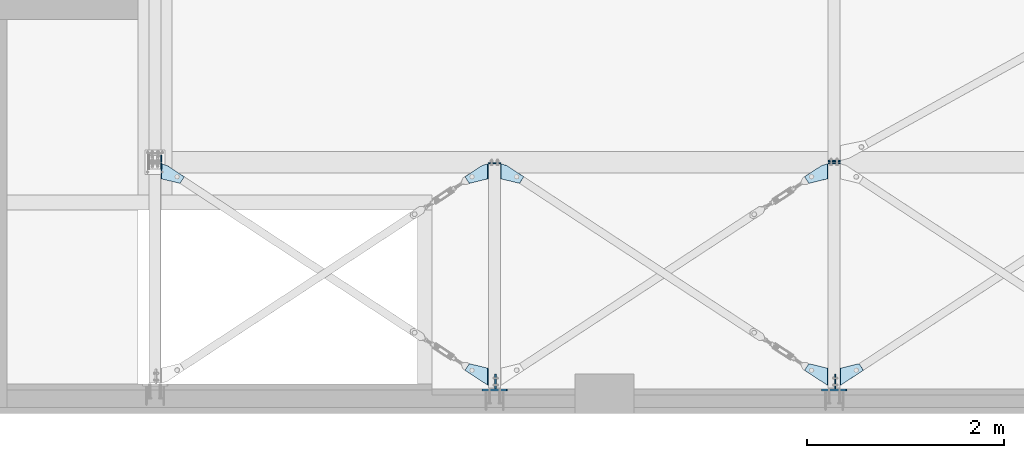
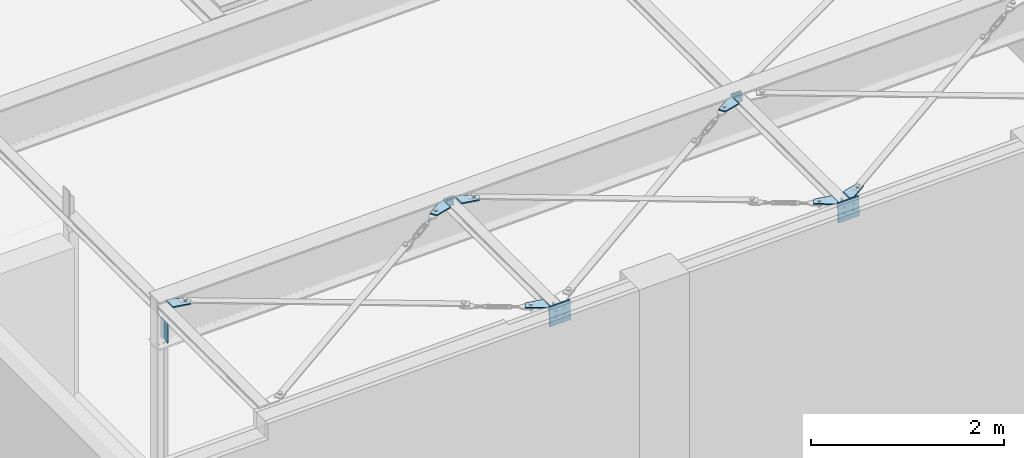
# One storey, part 35 of 476: 16 plates, 52 openings.
"""IFC2X3 building model written with IfcOpenShell, lengths in millimetres."""

from ifc_helpers import new_model, entity, si_unit, converted_unit, point, frame, frame_2d, origin, origin_with_axes, origin_2d_with_axis, place, context, project, spatial, polyline, circle_curve, line_curve, trimmed, segment, composite_curve, circle, outline, extrude, material, layer, layer_set, element, save


model = new_model("IFC2X3")

# Units and contexts
model_context = context("Model", 3, precision=1e-09, world=origin_with_axes())
ifc_project = project(units=[si_unit("LENGTHUNIT", "METRE", prefix="MILLI"), si_unit("AREAUNIT", "SQUARE_METRE"), si_unit("VOLUMEUNIT", "CUBIC_METRE"), converted_unit("PLANEANGLEUNIT", "DEGREE", entity("IfcPlaneAngleMeasure", 0.01745329), si_unit("PLANEANGLEUNIT", "RADIAN"), dimensions=[0, 0, 0, 0, 0, 0, 0])], contexts=[model_context])

# Site, building, storey
site_placement = place(None, origin_with_axes())
site = spatial("IfcSite", under=ifc_project, at=site_placement, Name="mKR Teilneubau & Sanierung BA1 - Ostfildern", CompositionType="ELEMENT")
building_placement = place(site_placement, origin_with_axes())
building = spatial("IfcBuilding", under=site, at=building_placement, Name="Struktur 1", CompositionType="ELEMENT")
storey_placement = place(building_placement, origin_with_axes())
storey = spatial("IfcBuildingStorey", under=building, at=storey_placement, Name="Default Storey", CompositionType="ELEMENT", Elevation=0.0)

# Plate, openings
ifc_material = material(Name="S235JR")
ifc_layer_1 = layer(ifc_material, 15.0)
ifc_layer_set_1 = layer_set([ifc_layer_1], Name="S235JR")
plate_1_placement = place(None, frame((15003.922584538, -21243.67487897, 5419.804698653), z_axis=(-0.029990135, 0.0, 0.999550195), x_axis=(-0.999550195, 0.0, -0.029990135)))
plate_1 = element("IfcPlate", 1, at=plate_1_placement, inside=storey, material=ifc_layer_set_1, Name="-", ObjectType="-", context=model_context, shape_type="SweptSolid", body=[
    extrude(outline(polyline([(0.0, 0.0), (40.371139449, 0.0), (239.157976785, 130.393742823), (195.281580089, 197.285566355), (1e-09, 150.0), (0.0, 0.0)])), origin_with_axes(), (0.0, 0.0, -1.0), 15.0),
])
opening_1_placement = place(plate_1_placement, frame((0.0, -0.001, 0.0), z_axis=(0.0, 1.0, 0.0), x_axis=(1.0, 0.0, 0.0)))
element("IfcOpeningElement", 2, at=opening_1_placement, cuts=plate_1, ObjectType="Opening", context=model_context, shape_type="SweptSolid", body=[
    extrude(outline(polyline([(0.0, 0.0), (8.0, 0.0), (0.0, 8.0), (0.0, 0.0)])), origin(), (0.0, 0.0, 1.0), 151.959123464),
])
opening_2_placement = place(plate_1_placement, frame((40.371139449, 0.0, 0.01), z_axis=(0.0, 0.0, 1.0), x_axis=(0.83616389, 0.548479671, 0.0)))
element("IfcOpeningElement", 3, at=opening_2_placement, cuts=plate_1, ObjectType="Opening", context=model_context, shape_type="SweptSolid", body=[
    extrude(outline(composite_curve([segment(trimmed(line_curve((0.0, 0.0), (1.0, 0.0), 29.87095402), [point((0.0, 0.0))], [point((29.87095402, 0.0))], True, "CARTESIAN"), True, "CONTINUOUS"), segment(trimmed(circle_curve(frame_2d((29.87095402, 100.0), x_axis=(-1.0, 0.0)), 100.0), [point((29.87095402, 0.0))], [point((-24.9770131, 16.383611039))], False, "CARTESIAN"), True, "CONTINUOUS"), segment(trimmed(line_curve((-24.9770131, 16.383611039), (0.83616389, -0.548479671), 29.87095402), [point((-24.9770131, 16.383611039))], [point((0.0, 0.0))], True, "CARTESIAN"), True, "CONTINUOUS")], self_intersect=False)), origin(), (0.0, 0.0, -1.0), 15.02),
])
opening_3_placement = place(plate_1_placement, frame((167.050213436, 145.431465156, -15.5), z_axis=(0.0, 0.0, -1.0), x_axis=(-1.0, 0.0, 0.0)))
element("IfcOpeningElement", 4, at=opening_3_placement, cuts=plate_1, ObjectType="Opening", context=model_context, shape_type="SweptSolid", body=[
    extrude(circle(Radius=14.501, at=frame_2d((0.0, -14.501), x_axis=(1.0, 0.0))), origin(), (0.0, 0.0, -1.0), 16.0),
])

plate_2_placement = place(None, frame((15003.922364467, -23320.388789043, 5419.804692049), z_axis=(-0.030004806, 0.0, 0.999549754), x_axis=(-0.971475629, 0.23533949, -0.029162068)))
plate_2 = element("IfcPlate", 5, at=plate_2_placement, inside=storey, material=ifc_layer_set_1, Name="-", ObjectType="-", context=model_context, shape_type="SweptSolid", body=[
    extrude(outline(polyline([(0.0, 0.0), (200.924912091, 0.0), (227.827566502, 75.338578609), (-41.531266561, 171.523929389), (0.0, 0.0)])), origin_with_axes(), (0.0, 0.0, -1.0), 15.0),
])
opening_4_placement = place(plate_2_placement, frame((0.456082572, -1.883618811, 0.0), z_axis=(-0.235330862, 0.971915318, 0.0), x_axis=(0.971915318, 0.235330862, 0.0)))
element("IfcOpeningElement", 6, at=opening_4_placement, cuts=plate_2, ObjectType="Opening", context=model_context, shape_type="SweptSolid", body=[
    extrude(outline(polyline([(0.0, 0.0), (8.0, 0.0), (0.0, 8.0), (0.0, 0.0)])), origin(), (0.0, 0.0, 1.0), 178.43837142),
])
opening_5_placement = place(plate_2_placement, frame((157.870504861, 57.84744696, -15.499797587), z_axis=(-1.4266e-05, -3.454e-06, 1.0), x_axis=(-0.23533949, 0.971913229, 0.0)))
element("IfcOpeningElement", 7, at=opening_5_placement, cuts=plate_2, ObjectType="Opening", context=model_context, shape_type="SweptSolid", body=[
    extrude(circle(Radius=14.501, at=origin_2d_with_axis()), origin(), (0.0, 0.0, 1.0), 16.000000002),
])

plate_3_placement = place(None, frame((11673.865194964, -21243.67487897, 5319.84189198), z_axis=(0.030019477, 0.0, -0.999549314), x_axis=(0.999549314, 0.0, 0.030019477)))
plate_3 = element("IfcPlate", 8, at=plate_3_placement, inside=storey, material=ifc_layer_set_1, Name="-", ObjectType="-", context=model_context, shape_type="SweptSolid", body=[
    extrude(outline(polyline([(0.0, 0.0), (40.371139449, 0.0), (239.157976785, 130.393742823), (195.281580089, 197.285566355), (1e-09, 150.0), (0.0, 0.0)])), origin_with_axes(), (0.0, 0.0, 1.0), 15.0),
])
opening_6_placement = place(plate_3_placement, frame((1e-09, 151.938123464, 0.0), z_axis=(0.0, -1.0, 0.0), x_axis=(1.0, 0.0, 0.0)))
element("IfcOpeningElement", 9, at=opening_6_placement, cuts=plate_3, ObjectType="Opening", context=model_context, shape_type="SweptSolid", body=[
    extrude(outline(polyline([(0.0, 0.0), (8.0, 0.0), (0.0, 8.0), (0.0, 0.0)])), origin(), (0.0, 0.0, 1.0), 151.959123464),
])
opening_7_placement = place(plate_3_placement, frame((0.0, 0.0, -0.01), z_axis=(0.0, 0.0, 1.0), x_axis=(1.0, 0.0, 0.0)))
element("IfcOpeningElement", 10, at=opening_7_placement, cuts=plate_3, ObjectType="Opening", context=model_context, shape_type="SweptSolid", body=[
    extrude(outline(composite_curve([segment(trimmed(line_curve((40.371139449, 0.0), (0.83616389, 0.548479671), 29.87095402), [point((40.371139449, 0.0))], [point((65.348152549, 16.383611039))], True, "CARTESIAN"), True, "CONTINUOUS"), segment(trimmed(circle_curve(frame_2d((10.500185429, 100.0), x_axis=(-1.0, 0.0)), 100.0), [point((65.348152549, 16.383611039))], [point((10.500185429, 0.0))], False, "CARTESIAN"), True, "CONTINUOUS"), segment(trimmed(line_curve((10.500185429, 0.0), (1.0, 0.0), 29.87095402), [point((10.500185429, 0.0))], [point((40.371139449, 0.0))], True, "CARTESIAN"), True, "CONTINUOUS")], self_intersect=False)), origin(), (0.0, 0.0, 1.0), 15.02),
])
opening_8_placement = place(plate_3_placement, frame((167.050213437, 130.930465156, 15.5), z_axis=(0.0, 0.0, -1.0), x_axis=(0.0, -1.0, 0.0)))
element("IfcOpeningElement", 11, at=opening_8_placement, cuts=plate_3, ObjectType="Opening", context=model_context, shape_type="SweptSolid", body=[
    extrude(circle(Radius=14.501, at=origin_2d_with_axis()), origin(), (0.0, 0.0, 1.0), 16.0),
])

plate_4_placement = place(None, frame((11553.921498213, -23320.388789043, 5316.113165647), z_axis=(-0.030004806, 0.0, 0.999549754), x_axis=(-0.971475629, 0.23533949, -0.029162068)))
plate_4 = element("IfcPlate", 12, at=plate_4_placement, inside=storey, material=ifc_layer_set_1, Name="-", ObjectType="-", context=model_context, shape_type="SweptSolid", body=[
    extrude(outline(polyline([(0.0, 0.0), (200.924912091, 0.0), (227.827566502, 75.338578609), (-41.531266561, 171.523929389), (0.0, 0.0)])), origin_with_axes(), (0.0, 0.0, -1.0), 15.0),
])
opening_9_placement = place(plate_4_placement, frame((0.456082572, -1.883618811, 0.0), z_axis=(-0.235330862, 0.971915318, 0.0), x_axis=(0.971915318, 0.235330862, 0.0)))
element("IfcOpeningElement", 13, at=opening_9_placement, cuts=plate_4, ObjectType="Opening", context=model_context, shape_type="SweptSolid", body=[
    extrude(outline(polyline([(0.0, 0.0), (8.0, 0.0), (0.0, 8.0), (0.0, 0.0)])), origin(), (0.0, 0.0, 1.0), 178.43837142),
])
opening_10_placement = place(plate_4_placement, frame((157.870504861, 57.84744696, -15.499797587), z_axis=(-1.4266e-05, -3.454e-06, 1.0), x_axis=(-0.23533949, 0.971913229, 0.0)))
element("IfcOpeningElement", 14, at=opening_10_placement, cuts=plate_4, ObjectType="Opening", context=model_context, shape_type="SweptSolid", body=[
    extrude(circle(Radius=14.501, at=origin_2d_with_axis()), origin(), (0.0, 0.0, 1.0), 16.000000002),
])

plate_5_placement = place(None, frame((11553.921718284, -21243.67487897, 5316.113172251), z_axis=(-0.029990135, 0.0, 0.999550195), x_axis=(-0.999550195, 0.0, -0.029990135)))
plate_5 = element("IfcPlate", 15, at=plate_5_placement, inside=storey, material=ifc_layer_set_1, Name="-", ObjectType="-", context=model_context, shape_type="SweptSolid", body=[
    extrude(outline(polyline([(0.0, 0.0), (40.371139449, 0.0), (239.157976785, 130.393742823), (195.281580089, 197.285566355), (1e-09, 150.0), (0.0, 0.0)])), origin_with_axes(), (0.0, 0.0, -1.0), 15.0),
])
opening_11_placement = place(plate_5_placement, frame((0.0, -0.001, 0.0), z_axis=(0.0, 1.0, 0.0), x_axis=(1.0, 0.0, 0.0)))
element("IfcOpeningElement", 16, at=opening_11_placement, cuts=plate_5, ObjectType="Opening", context=model_context, shape_type="SweptSolid", body=[
    extrude(outline(polyline([(0.0, 0.0), (8.0, 0.0), (0.0, 8.0), (0.0, 0.0)])), origin(), (0.0, 0.0, 1.0), 151.959123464),
])
opening_12_placement = place(plate_5_placement, frame((40.371139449, 0.0, 0.01), z_axis=(0.0, 0.0, 1.0), x_axis=(0.83616389, 0.548479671, 0.0)))
element("IfcOpeningElement", 17, at=opening_12_placement, cuts=plate_5, ObjectType="Opening", context=model_context, shape_type="SweptSolid", body=[
    extrude(outline(composite_curve([segment(trimmed(line_curve((0.0, 0.0), (1.0, 0.0), 29.87095402), [point((0.0, 0.0))], [point((29.87095402, 0.0))], True, "CARTESIAN"), True, "CONTINUOUS"), segment(trimmed(circle_curve(frame_2d((29.87095402, 100.0), x_axis=(-1.0, 0.0)), 100.0), [point((29.87095402, 0.0))], [point((-24.9770131, 16.383611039))], False, "CARTESIAN"), True, "CONTINUOUS"), segment(trimmed(line_curve((-24.9770131, 16.383611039), (0.83616389, -0.548479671), 29.87095402), [point((-24.9770131, 16.383611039))], [point((0.0, 0.0))], True, "CARTESIAN"), True, "CONTINUOUS")], self_intersect=False)), origin(), (0.0, 0.0, -1.0), 15.02),
])
opening_13_placement = place(plate_5_placement, frame((167.050213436, 145.431465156, -15.5), z_axis=(0.0, 0.0, -1.0), x_axis=(-1.0, 0.0, 0.0)))
element("IfcOpeningElement", 18, at=opening_13_placement, cuts=plate_5, ObjectType="Opening", context=model_context, shape_type="SweptSolid", body=[
    extrude(circle(Radius=14.501, at=frame_2d((0.0, -14.501), x_axis=(1.0, 0.0))), origin(), (0.0, 0.0, -1.0), 16.0),
])

plate_6_placement = place(None, frame((8223.86432871, -21243.67487897, 5216.150365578), z_axis=(0.030019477, 0.0, -0.999549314), x_axis=(0.999549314, 0.0, 0.030019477)))
plate_6 = element("IfcPlate", 19, at=plate_6_placement, inside=storey, material=ifc_layer_set_1, Name="-", ObjectType="-", context=model_context, shape_type="SweptSolid", body=[
    extrude(outline(polyline([(0.0, 0.0), (40.371139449, 0.0), (239.157976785, 130.393742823), (195.281580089, 197.285566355), (1e-09, 150.0), (0.0, 0.0)])), origin_with_axes(), (0.0, 0.0, 1.0), 15.0),
])
opening_14_placement = place(plate_6_placement, frame((1e-09, 151.938123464, 0.0), z_axis=(0.0, -1.0, 0.0), x_axis=(1.0, 0.0, 0.0)))
element("IfcOpeningElement", 20, at=opening_14_placement, cuts=plate_6, ObjectType="Opening", context=model_context, shape_type="SweptSolid", body=[
    extrude(outline(polyline([(0.0, 0.0), (8.0, 0.0), (0.0, 8.0), (0.0, 0.0)])), origin(), (0.0, 0.0, 1.0), 151.959123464),
])
opening_15_placement = place(plate_6_placement, frame((0.0, 0.0, -0.01), z_axis=(0.0, 0.0, 1.0), x_axis=(1.0, 0.0, 0.0)))
element("IfcOpeningElement", 21, at=opening_15_placement, cuts=plate_6, ObjectType="Opening", context=model_context, shape_type="SweptSolid", body=[
    extrude(outline(composite_curve([segment(trimmed(line_curve((40.371139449, 0.0), (0.83616389, 0.548479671), 29.87095402), [point((40.371139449, 0.0))], [point((65.348152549, 16.383611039))], True, "CARTESIAN"), True, "CONTINUOUS"), segment(trimmed(circle_curve(frame_2d((10.500185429, 100.0), x_axis=(-1.0, 0.0)), 100.0), [point((65.348152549, 16.383611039))], [point((10.500185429, 0.0))], False, "CARTESIAN"), True, "CONTINUOUS"), segment(trimmed(line_curve((10.500185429, 0.0), (1.0, 0.0), 29.87095402), [point((10.500185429, 0.0))], [point((40.371139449, 0.0))], True, "CARTESIAN"), True, "CONTINUOUS")], self_intersect=False)), origin(), (0.0, 0.0, 1.0), 15.02),
])
opening_16_placement = place(plate_6_placement, frame((167.050213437, 130.930465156, 15.5), z_axis=(0.0, 0.0, -1.0), x_axis=(0.0, -1.0, 0.0)))
element("IfcOpeningElement", 22, at=opening_16_placement, cuts=plate_6, ObjectType="Opening", context=model_context, shape_type="SweptSolid", body=[
    extrude(circle(Radius=14.501, at=origin_2d_with_axis()), origin(), (0.0, 0.0, 1.0), 16.0),
])

ifc_layer_2 = layer(ifc_material, 20.0)
ifc_layer_set_2 = layer_set([ifc_layer_2], Name="S235JR")
plate_7_placement = place(None, frame((14938.203082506, -23549.67387897, 5477.808649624), z_axis=(0.0, 1.0, 0.0), x_axis=(0.999548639, 0.0, 0.030041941)))
plate_7 = element("IfcPlate", 23, at=plate_7_placement, inside=storey, material=ifc_layer_set_2, Name="-", ObjectType="-", context=model_context, shape_type="SweptSolid", body=[
    extrude(outline(polyline([(0.0, 0.0), (250.0, 0.0), (250.0, 250.0), (0.0, 250.0), (0.0, 0.0)])), origin_with_axes(), (0.0, 0.0, 1.0), 20.0),
])
opening_17_placement = place(plate_7_placement, frame((72.0, 152.0, 20.5), z_axis=(0.0, 0.0, -1.0), x_axis=(1.0, 0.0, 0.0)))
element("IfcOpeningElement", 24, at=opening_17_placement, cuts=plate_7, ObjectType="Opening", context=model_context, shape_type="SweptSolid", body=[
    extrude(circle(Radius=8.501, at=origin_2d_with_axis()), origin(), (0.0, 0.0, 1.0), 21.0),
])
opening_18_placement = place(plate_7_placement, frame((178.0, 152.0, 20.5), z_axis=(0.0, 0.0, -1.0), x_axis=(1.0, 0.0, 0.0)))
element("IfcOpeningElement", 25, at=opening_18_placement, cuts=plate_7, ObjectType="Opening", context=model_context, shape_type="SweptSolid", body=[
    extrude(circle(Radius=8.501, at=origin_2d_with_axis()), origin(), (0.0, 0.0, 1.0), 21.0),
])
opening_19_placement = place(plate_7_placement, frame((178.0, 72.0, 20.5), z_axis=(0.0, 0.0, -1.0), x_axis=(1.0, 0.0, 0.0)))
element("IfcOpeningElement", 26, at=opening_19_placement, cuts=plate_7, ObjectType="Opening", context=model_context, shape_type="SweptSolid", body=[
    extrude(circle(Radius=8.501, at=origin_2d_with_axis()), origin(), (0.0, 0.0, 1.0), 21.0),
])
opening_20_placement = place(plate_7_placement, frame((72.0, 72.0, 20.5), z_axis=(0.0, 0.0, -1.0), x_axis=(1.0, 0.0, 0.0)))
element("IfcOpeningElement", 27, at=opening_20_placement, cuts=plate_7, ObjectType="Opening", context=model_context, shape_type="SweptSolid", body=[
    extrude(circle(Radius=8.501, at=origin_2d_with_axis()), origin(), (0.0, 0.0, 1.0), 21.0),
])

plate_8_placement = place(None, frame((15083.099349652, -23454.67387897, 5365.124553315), z_axis=(-0.999548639, 0.0, -0.030041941), x_axis=(0.0, -1.0, 0.0)))
plate_8 = element("IfcPlate", 28, at=plate_8_placement, inside=storey, material=ifc_layer_set_1, Name="-", ObjectType="-", context=model_context, shape_type="SweptSolid", body=[
    extrude(outline(polyline([(-75.0, -37.5), (75.0, -37.5), (75.0, 37.5), (-75.0, 37.5), (-75.0, -37.5)])), origin_with_axes(), (0.0, 0.0, 1.0), 15.0),
])
opening_21_placement = place(plate_8_placement, frame((1.0353e-05, 2.166e-06, -0.5), z_axis=(0.0, 0.0, 1.0), x_axis=(1.0, 0.0, 0.0)))
element("IfcOpeningElement", 29, at=opening_21_placement, cuts=plate_8, ObjectType="Opening", context=model_context, shape_type="SweptSolid", body=[
    extrude(circle(Radius=9.001, at=frame_2d((35.0, 0.0), x_axis=(1.0, 0.0))), origin(), (0.0, 0.0, 1.0), 16.0),
])
opening_22_placement = place(plate_8_placement, frame((1.0353e-05, 2.166e-06, -0.5), z_axis=(0.0, 0.0, 1.0), x_axis=(1.0, 0.0, 0.0)))
element("IfcOpeningElement", 30, at=opening_22_placement, cuts=plate_8, ObjectType="Opening", context=model_context, shape_type="SweptSolid", body=[
    extrude(circle(Radius=9.001, at=frame_2d((-35.0, 0.0), x_axis=(1.0, 0.0))), origin(), (0.0, 0.0, 1.0), 16.0),
])

plate_9_placement = place(None, frame((11488.203945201, -23549.67387897, 5374.115294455), z_axis=(0.0, 1.0, 0.0), x_axis=(0.999548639, 0.0, 0.030041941)))
plate_9 = element("IfcPlate", 31, at=plate_9_placement, inside=storey, material=ifc_layer_set_2, Name="-", ObjectType="-", context=model_context, shape_type="SweptSolid", body=[
    extrude(outline(polyline([(0.0, 0.0), (250.0, 0.0), (250.0, 250.0), (0.0, 250.0), (0.0, 0.0)])), origin_with_axes(), (0.0, 0.0, 1.0), 20.0),
])
opening_23_placement = place(plate_9_placement, frame((72.0, 152.0, 20.5), z_axis=(0.0, 0.0, -1.0), x_axis=(1.0, 0.0, 0.0)))
element("IfcOpeningElement", 32, at=opening_23_placement, cuts=plate_9, ObjectType="Opening", context=model_context, shape_type="SweptSolid", body=[
    extrude(circle(Radius=8.501, at=origin_2d_with_axis()), origin(), (0.0, 0.0, 1.0), 21.0),
])
opening_24_placement = place(plate_9_placement, frame((178.0, 152.0, 20.5), z_axis=(0.0, 0.0, -1.0), x_axis=(1.0, 0.0, 0.0)))
element("IfcOpeningElement", 33, at=opening_24_placement, cuts=plate_9, ObjectType="Opening", context=model_context, shape_type="SweptSolid", body=[
    extrude(circle(Radius=8.501, at=origin_2d_with_axis()), origin(), (0.0, 0.0, 1.0), 21.0),
])
opening_25_placement = place(plate_9_placement, frame((178.0, 72.0, 20.5), z_axis=(0.0, 0.0, -1.0), x_axis=(1.0, 0.0, 0.0)))
element("IfcOpeningElement", 34, at=opening_25_placement, cuts=plate_9, ObjectType="Opening", context=model_context, shape_type="SweptSolid", body=[
    extrude(circle(Radius=8.501, at=origin_2d_with_axis()), origin(), (0.0, 0.0, 1.0), 21.0),
])
opening_26_placement = place(plate_9_placement, frame((72.0, 72.0, 20.5), z_axis=(0.0, 0.0, -1.0), x_axis=(1.0, 0.0, 0.0)))
element("IfcOpeningElement", 35, at=opening_26_placement, cuts=plate_9, ObjectType="Opening", context=model_context, shape_type="SweptSolid", body=[
    extrude(circle(Radius=8.501, at=origin_2d_with_axis()), origin(), (0.0, 0.0, 1.0), 21.0),
])

plate_10_placement = place(None, frame((11633.100212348, -23454.67387897, 5261.431198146), z_axis=(-0.999548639, 0.0, -0.030041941), x_axis=(0.0, -1.0, 0.0)))
plate_10 = element("IfcPlate", 36, at=plate_10_placement, inside=storey, material=ifc_layer_set_1, Name="-", ObjectType="-", context=model_context, shape_type="SweptSolid", body=[
    extrude(outline(polyline([(-75.0, -37.5), (75.0, -37.5), (75.0, 37.5), (-75.0, 37.5), (-75.0, -37.5)])), origin_with_axes(), (0.0, 0.0, 1.0), 15.0),
])
opening_27_placement = place(plate_10_placement, frame((1.0353e-05, 2.166e-06, -0.5), z_axis=(0.0, 0.0, 1.0), x_axis=(1.0, 0.0, 0.0)))
element("IfcOpeningElement", 37, at=opening_27_placement, cuts=plate_10, ObjectType="Opening", context=model_context, shape_type="SweptSolid", body=[
    extrude(circle(Radius=9.001, at=frame_2d((35.0, 0.0), x_axis=(1.0, 0.0))), origin(), (0.0, 0.0, 1.0), 16.0),
])
opening_28_placement = place(plate_10_placement, frame((1.0353e-05, 2.166e-06, -0.5), z_axis=(0.0, 0.0, 1.0), x_axis=(1.0, 0.0, 0.0)))
element("IfcOpeningElement", 38, at=opening_28_placement, cuts=plate_10, ObjectType="Opening", context=model_context, shape_type="SweptSolid", body=[
    extrude(circle(Radius=9.001, at=frame_2d((-35.0, 0.0), x_axis=(1.0, 0.0))), origin(), (0.0, 0.0, 1.0), 16.0),
])

plate_11_placement = place(None, frame((15123.866281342, -23320.388789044, 5423.533424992), z_axis=(0.030004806, 0.0, -0.999549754), x_axis=(0.971475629, 0.23533949, 0.029162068)))
plate_11 = element("IfcPlate", 39, at=plate_11_placement, inside=storey, material=ifc_layer_set_1, Name="-", ObjectType="-", context=model_context, shape_type="SweptSolid", body=[
    extrude(outline(polyline([(0.0, 0.0), (200.924912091, 0.0), (227.827566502, 75.338578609), (-41.531266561, 171.523929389), (0.0, 0.0)])), origin_with_axes(), (0.0, 0.0, 1.0), 15.0),
])
opening_29_placement = place(plate_11_placement, frame((-41.531266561, 171.523929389, 0.0), z_axis=(0.235330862, -0.971915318, 0.0), x_axis=(0.971915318, 0.235330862, 0.0)))
element("IfcOpeningElement", 40, at=opening_29_placement, cuts=plate_11, ObjectType="Opening", context=model_context, shape_type="SweptSolid", body=[
    extrude(outline(polyline([(0.0, 0.0), (8.0, 0.0), (0.0, 8.0), (0.0, 0.0)])), origin(), (0.0, 0.0, 1.0), 178.43837142),
])
opening_30_placement = place(plate_11_placement, frame((161.283162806, 43.753733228, 15.499797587), z_axis=(1.4266e-05, 3.454e-06, 1.0), x_axis=(1.0, 0.0, -1.4266e-05)))
element("IfcOpeningElement", 41, at=opening_30_placement, cuts=plate_11, ObjectType="Opening", context=model_context, shape_type="SweptSolid", body=[
    extrude(circle(Radius=14.501, at=frame_2d((-3.412657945, 14.093713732), x_axis=(1.0, 0.0))), origin(), (0.0, 0.0, -1.0), 16.000000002),
])

ifc_layer_3 = layer(ifc_material, 10.0)
ifc_layer_set_3 = layer_set([ifc_layer_3], Name="S235JR")
plate_12_placement = place(None, frame((8222.108764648, -21296.67387897, 4696.483942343), z_axis=(1.0, 0.0, 0.0), x_axis=(0.0, 1.0, 0.0)))
plate_12 = element("IfcPlate", 42, at=plate_12_placement, inside=storey, material=ifc_layer_set_3, Name="Stiffener#2", ObjectType="Stiffener#2", context=model_context, shape_type="SweptSolid", body=[
    extrude(outline(polyline([(0.0, 0.0), (65.0, 0.0), (65.0, 250.0), (0.0, 250.0), (0.0, 0.0)])), origin_with_axes(), (0.0, 0.0, 1.0), 10.0),
])
opening_31_placement = place(plate_12_placement, frame((0.0, 0.0, -0.01), z_axis=(0.0, 0.0, 1.0), x_axis=(1.0, 0.0, 0.0)))
element("IfcOpeningElement", 43, at=opening_31_placement, cuts=plate_12, ObjectType="Opening", context=model_context, shape_type="SweptSolid", body=[
    extrude(outline(composite_curve([segment(trimmed(line_curve((65.0, 0.0), (0.0, 1.0), 25.0), [point((65.0, 0.0))], [point((65.0, 25.0))], True, "CARTESIAN"), True, "CONTINUOUS"), segment(trimmed(circle_curve(frame_2d((40.0, 25.0), x_axis=(-1.0, 0.0)), 25.0), [point((65.0, 25.0))], [point((40.0, 0.0))], False, "CARTESIAN"), True, "CONTINUOUS"), segment(trimmed(line_curve((40.0, 0.0), (1.0, 0.0), 25.0), [point((40.0, 0.0))], [point((65.0, 0.0))], True, "CARTESIAN"), True, "CONTINUOUS")], self_intersect=False)), origin(), (0.0, 0.0, 1.0), 10.02),
])
opening_32_placement = place(plate_12_placement, frame((41.0, 22.499322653, -0.5), z_axis=(0.0, 0.0, 1.0), x_axis=(0.0, 1.0, 0.0)))
element("IfcOpeningElement", 44, at=opening_32_placement, cuts=plate_12, ObjectType="Opening", context=model_context, shape_type="SweptSolid", body=[
    extrude(circle(Radius=7.001, at=frame_2d((-7.0, -7.0), x_axis=(1.0, 0.0))), origin(), (0.0, 0.0, 1.0), 11.0),
])

plate_13_placement = place(None, frame((8222.108764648, -21219.67387897, 4696.483942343), z_axis=(1.0, 0.0, 0.0), x_axis=(0.0, 1.0, 0.0)))
plate_13 = element("IfcPlate", 45, at=plate_13_placement, inside=storey, material=ifc_layer_set_3, Name="Stiffener#2", ObjectType="Stiffener#2", context=model_context, shape_type="SweptSolid", body=[
    extrude(outline(polyline([(0.0, 0.0), (65.0, 0.0), (65.0, 250.0), (0.0, 250.0), (0.0, 0.0)])), origin_with_axes(), (0.0, 0.0, 1.0), 10.0),
])
opening_33_placement = place(plate_13_placement, frame((0.0, 0.0, -0.01), z_axis=(0.0, 0.0, 1.0), x_axis=(1.0, 0.0, 0.0)))
element("IfcOpeningElement", 46, at=opening_33_placement, cuts=plate_13, ObjectType="Opening", context=model_context, shape_type="SweptSolid", body=[
    extrude(outline(composite_curve([segment(trimmed(line_curve((0.0, 0.0), (1.0, 0.0), 25.0), [point((0.0, 0.0))], [point((25.0, 0.0))], True, "CARTESIAN"), True, "CONTINUOUS"), segment(trimmed(circle_curve(frame_2d((25.0, 25.0), x_axis=(-1.0, 0.0)), 25.0), [point((25.0, 0.0))], [point((0.0, 25.0))], False, "CARTESIAN"), True, "CONTINUOUS"), segment(trimmed(line_curve((0.0, 25.0), (0.0, -1.0), 25.0), [point((0.0, 25.0))], [point((0.0, 0.0))], True, "CARTESIAN"), True, "CONTINUOUS")], self_intersect=False)), origin(), (0.0, 0.0, 1.0), 10.02),
])
opening_34_placement = place(plate_13_placement, frame((24.0, 22.499322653, -0.5), z_axis=(0.0, 0.0, 1.0), x_axis=(0.0, 1.0, 0.0)))
element("IfcOpeningElement", 47, at=opening_34_placement, cuts=plate_13, ObjectType="Opening", context=model_context, shape_type="SweptSolid", body=[
    extrude(circle(Radius=7.001, at=frame_2d((-7.0, 7.0), x_axis=(1.0, 0.0))), origin(), (0.0, 0.0, 1.0), 11.0),
])

ifc_layer_4 = layer(ifc_material, 12.0)
ifc_layer_set_4 = layer_set([ifc_layer_4], Name="S235JR")
plate_14_placement = place(None, frame((15123.720531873, -21231.67387897, 5428.37543939), z_axis=(0.0, -1.0, 0.0), x_axis=(-0.999549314, 0.0, -0.030019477)))
plate_14 = element("IfcPlate", 48, at=plate_14_placement, inside=storey, material=ifc_layer_set_4, Name="Endplate", ObjectType="Endplate", context=model_context, shape_type="SweptSolid", body=[
    extrude(outline(polyline([(0.0, 0.0), (120.0, 0.0), (120.0, 124.0), (0.0, 124.0), (0.0, 0.0)])), origin_with_axes(), (0.0, 0.0, 1.0), 12.0),
])
opening_35_placement = place(plate_14_placement, frame((89.999999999, 62.000112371, -0.5), z_axis=(0.0, 0.0, 1.0), x_axis=(0.0, -1.0, 0.0)))
element("IfcOpeningElement", 49, at=opening_35_placement, cuts=plate_14, ObjectType="Opening", context=model_context, shape_type="SweptSolid", body=[
    extrude(circle(Radius=7.001, at=origin_2d_with_axis()), origin(), (0.0, 0.0, 1.0), 13.0),
])
opening_36_placement = place(plate_14_placement, frame((30.000000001, 61.999887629, -0.5), z_axis=(0.0, 0.0, 1.0), x_axis=(0.0, -1.0, 0.0)))
element("IfcOpeningElement", 50, at=opening_36_placement, cuts=plate_14, ObjectType="Opening", context=model_context, shape_type="SweptSolid", body=[
    extrude(circle(Radius=7.001, at=origin_2d_with_axis()), origin(), (0.0, 0.0, 1.0), 13.0),
])
opening_37_placement = place(plate_14_placement, frame((74.5, 99.0, -0.5), z_axis=(0.0, 0.0, 1.0), x_axis=(0.0, -1.0, 0.0)))
element("IfcOpeningElement", 51, at=opening_37_placement, cuts=plate_14, ObjectType="Opening", context=model_context, shape_type="SweptSolid", body=[
    extrude(circle(Radius=6.001, at=origin_2d_with_axis()), origin(), (0.0, 0.0, 1.0), 13.0),
])
opening_38_placement = place(plate_14_placement, frame((74.5, 25.0, -0.5), z_axis=(0.0, 0.0, 1.0), x_axis=(0.0, -1.0, 0.0)))
element("IfcOpeningElement", 52, at=opening_38_placement, cuts=plate_14, ObjectType="Opening", context=model_context, shape_type="SweptSolid", body=[
    extrude(circle(Radius=6.001, at=origin_2d_with_axis()), origin(), (0.0, 0.0, 1.0), 13.0),
])
opening_39_placement = place(plate_14_placement, frame((45.5, 25.0, -0.5), z_axis=(0.0, 0.0, 1.0), x_axis=(0.0, -1.0, 0.0)))
element("IfcOpeningElement", 53, at=opening_39_placement, cuts=plate_14, ObjectType="Opening", context=model_context, shape_type="SweptSolid", body=[
    extrude(circle(Radius=6.001, at=origin_2d_with_axis()), origin(), (0.0, 0.0, 1.0), 13.0),
])
opening_40_placement = place(plate_14_placement, frame((45.5, 99.0, -0.5), z_axis=(0.0, 0.0, 1.0), x_axis=(0.0, -1.0, 0.0)))
element("IfcOpeningElement", 54, at=opening_40_placement, cuts=plate_14, ObjectType="Opening", context=model_context, shape_type="SweptSolid", body=[
    extrude(circle(Radius=6.001, at=origin_2d_with_axis()), origin(), (0.0, 0.0, 1.0), 13.0),
])

plate_15_placement = place(None, frame((15003.774614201, -21219.67387897, 5424.773102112), z_axis=(0.0, 1.0, 0.0), x_axis=(0.999549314, 0.0, 0.030019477)))
plate_15 = element("IfcPlate", 55, at=plate_15_placement, inside=storey, material=ifc_layer_set_4, Name="Endplate", ObjectType="Endplate", context=model_context, shape_type="SweptSolid", body=[
    extrude(outline(polyline([(0.0, 0.0), (120.0, 0.0), (120.0, 124.0), (0.0, 124.0), (0.0, 0.0)])), origin_with_axes(), (0.0, 0.0, 1.0), 12.0),
])
opening_41_placement = place(plate_15_placement, frame((30.000000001, 62.000112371, 12.5), z_axis=(0.0, 0.0, -1.0), x_axis=(0.0, -1.0, 0.0)))
element("IfcOpeningElement", 56, at=opening_41_placement, cuts=plate_15, ObjectType="Opening", context=model_context, shape_type="SweptSolid", body=[
    extrude(circle(Radius=7.001, at=origin_2d_with_axis()), origin(), (0.0, 0.0, 1.0), 13.0),
])
opening_42_placement = place(plate_15_placement, frame((89.999999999, 61.999887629, 12.5), z_axis=(0.0, 0.0, -1.0), x_axis=(0.0, -1.0, 0.0)))
element("IfcOpeningElement", 57, at=opening_42_placement, cuts=plate_15, ObjectType="Opening", context=model_context, shape_type="SweptSolid", body=[
    extrude(circle(Radius=7.001, at=origin_2d_with_axis()), origin(), (0.0, 0.0, 1.0), 13.0),
])
opening_43_placement = place(plate_15_placement, frame((45.5, 99.0, -0.5), z_axis=(0.0, 0.0, 1.0), x_axis=(0.0, 1.0, 0.0)))
element("IfcOpeningElement", 58, at=opening_43_placement, cuts=plate_15, ObjectType="Opening", context=model_context, shape_type="SweptSolid", body=[
    extrude(circle(Radius=6.001, at=origin_2d_with_axis()), origin(), (0.0, 0.0, 1.0), 13.0),
])
opening_44_placement = place(plate_15_placement, frame((45.5, 25.0, -0.5), z_axis=(0.0, 0.0, 1.0), x_axis=(0.0, 1.0, 0.0)))
element("IfcOpeningElement", 59, at=opening_44_placement, cuts=plate_15, ObjectType="Opening", context=model_context, shape_type="SweptSolid", body=[
    extrude(circle(Radius=6.001, at=origin_2d_with_axis()), origin(), (0.0, 0.0, 1.0), 13.0),
])
opening_45_placement = place(plate_15_placement, frame((74.5, 25.0, -0.5), z_axis=(0.0, 0.0, 1.0), x_axis=(0.0, 1.0, 0.0)))
element("IfcOpeningElement", 60, at=opening_45_placement, cuts=plate_15, ObjectType="Opening", context=model_context, shape_type="SweptSolid", body=[
    extrude(circle(Radius=6.001, at=origin_2d_with_axis()), origin(), (0.0, 0.0, 1.0), 13.0),
])
opening_46_placement = place(plate_15_placement, frame((74.5, 99.0, -0.5), z_axis=(0.0, 0.0, 1.0), x_axis=(0.0, 1.0, 0.0)))
element("IfcOpeningElement", 61, at=opening_46_placement, cuts=plate_15, ObjectType="Opening", context=model_context, shape_type="SweptSolid", body=[
    extrude(circle(Radius=6.001, at=origin_2d_with_axis()), origin(), (0.0, 0.0, 1.0), 13.0),
])

plate_16_placement = place(None, frame((11673.721467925, -21231.67387897, 5324.682086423), z_axis=(0.0, -1.0, 0.0), x_axis=(-0.999549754, 0.0, -0.030004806)))
plate_16 = element("IfcPlate", 62, at=plate_16_placement, inside=storey, material=ifc_layer_set_4, Name="Endplate", ObjectType="Endplate", context=model_context, shape_type="SweptSolid", body=[
    extrude(outline(polyline([(0.0, 0.0), (120.0, 0.0), (120.0, 124.0), (0.0, 124.0), (0.0, 0.0)])), origin_with_axes(), (0.0, 0.0, 1.0), 12.0),
])
opening_47_placement = place(plate_16_placement, frame((74.5, 99.0, -0.5), z_axis=(0.0, 0.0, 1.0), x_axis=(0.0, -1.0, 0.0)))
element("IfcOpeningElement", 63, at=opening_47_placement, cuts=plate_16, ObjectType="Opening", context=model_context, shape_type="SweptSolid", body=[
    extrude(circle(Radius=6.001, at=origin_2d_with_axis()), origin(), (0.0, 0.0, 1.0), 13.0),
])
opening_48_placement = place(plate_16_placement, frame((74.5, 25.0, -0.5), z_axis=(0.0, 0.0, 1.0), x_axis=(0.0, -1.0, 0.0)))
element("IfcOpeningElement", 64, at=opening_48_placement, cuts=plate_16, ObjectType="Opening", context=model_context, shape_type="SweptSolid", body=[
    extrude(circle(Radius=6.001, at=origin_2d_with_axis()), origin(), (0.0, 0.0, 1.0), 13.0),
])
opening_49_placement = place(plate_16_placement, frame((45.5, 25.0, -0.5), z_axis=(0.0, 0.0, 1.0), x_axis=(0.0, -1.0, 0.0)))
element("IfcOpeningElement", 65, at=opening_49_placement, cuts=plate_16, ObjectType="Opening", context=model_context, shape_type="SweptSolid", body=[
    extrude(circle(Radius=6.001, at=origin_2d_with_axis()), origin(), (0.0, 0.0, 1.0), 13.0),
])
opening_50_placement = place(plate_16_placement, frame((45.5, 99.0, -0.5), z_axis=(0.0, 0.0, 1.0), x_axis=(0.0, -1.0, 0.0)))
element("IfcOpeningElement", 66, at=opening_50_placement, cuts=plate_16, ObjectType="Opening", context=model_context, shape_type="SweptSolid", body=[
    extrude(circle(Radius=6.001, at=origin_2d_with_axis()), origin(), (0.0, 0.0, 1.0), 13.0),
])
opening_51_placement = place(plate_16_placement, frame((30.0, 62.0, -0.5), z_axis=(0.0, 0.0, 1.0), x_axis=(0.0, -1.0, 0.0)))
element("IfcOpeningElement", 67, at=opening_51_placement, cuts=plate_16, ObjectType="Opening", context=model_context, shape_type="SweptSolid", body=[
    extrude(circle(Radius=7.001, at=origin_2d_with_axis()), origin(), (0.0, 0.0, 1.0), 13.0),
])
opening_52_placement = place(plate_16_placement, frame((90.0, 62.0, -0.5), z_axis=(0.0, 0.0, 1.0), x_axis=(0.0, -1.0, 0.0)))
element("IfcOpeningElement", 68, at=opening_52_placement, cuts=plate_16, ObjectType="Opening", context=model_context, shape_type="SweptSolid", body=[
    extrude(circle(Radius=7.001, at=origin_2d_with_axis()), origin(), (0.0, 0.0, 1.0), 13.0),
])

save(model, "model.ifc")
